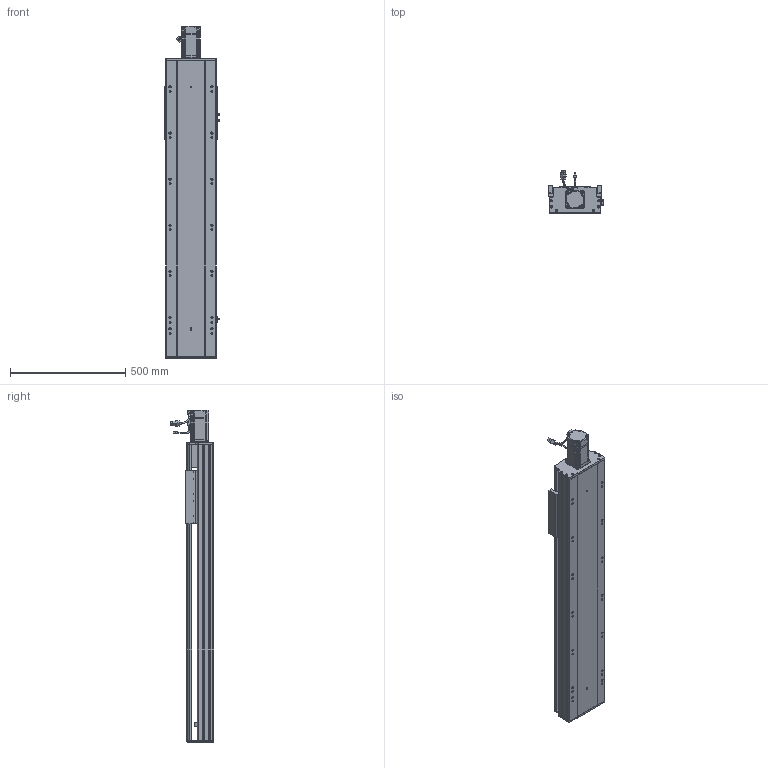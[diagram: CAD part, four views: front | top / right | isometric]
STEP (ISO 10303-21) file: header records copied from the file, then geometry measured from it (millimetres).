
FILE_DESCRIPTION (( 'STEP AP203' ), '1' );
FILE_NAME ('RY220-L2525-800-MK-邧嶺.SLDASM_850.step', '2022-08-06T08:57:17', ( '' ), ( '' ), 'SwSTEP 2.0', 'SolidWorks 2016', '' );
FILE_SCHEMA (( 'CONFIG_CONTROL_DESIGN' ));
Length unit declared in the file: millimetre
Products named in the file (12): RY220ヶ裔啣; 怢湛750W_ECMA-CX0807ES; RY220-俋离672覜茼んえ; RY220电机支撑座FK20（PCD90M6）; RY220菁釱MK-800-邧嶺_850; 滅袉蝶18-12; RY220-800-奻裔啣-MK_850; 滅袉蝶18-15; RY220綴裔啣; 覜茼ん672; RY220-L2525-800-MK-邧嶺.SLDASM_850; RY220半封闭25-32螺母铝滑块
Assembly tree (15 placements, depth 2):
  RY220-L2525-800-MK-邧嶺.SLDASM_850
    RY220菁釱MK-800-邧嶺_850
    RY220电机支撑座FK20（PCD90M6）
    怢湛750W_ECMA-CX0807ES
    滅袉蝶18-12  x2
    RY220ヶ裔啣
    RY220綴裔啣
    覜茼ん672  x3
    RY220半封闭25-32螺母铝滑块
    RY220-800-奻裔啣-MK_850
    RY220-俋离672覜茼んえ
    滅袉蝶18-15  x2
Bounding box: 238.7 x 187.27 x 1440.3 mm (x, y, z)
Volume: 11575232.3 mm3; surface area: 3179825.3 mm2
Topology: 16 solids, 16 shells, 2210 faces, 6130 edges, 3876 vertices
Faces by surface type: cylinder 992, plane 915, cone 241, bspline 36, sphere 16, torus 10
Entity records: 72728 total; most frequent: CARTESIAN_POINT 20699, ORIENTED_EDGE 10816, DIRECTION 10199, EDGE_CURVE 5408, AXIS2_PLACEMENT_3D 3579, VERTEX_POINT 3532, VECTOR 3041, LINE 3041
